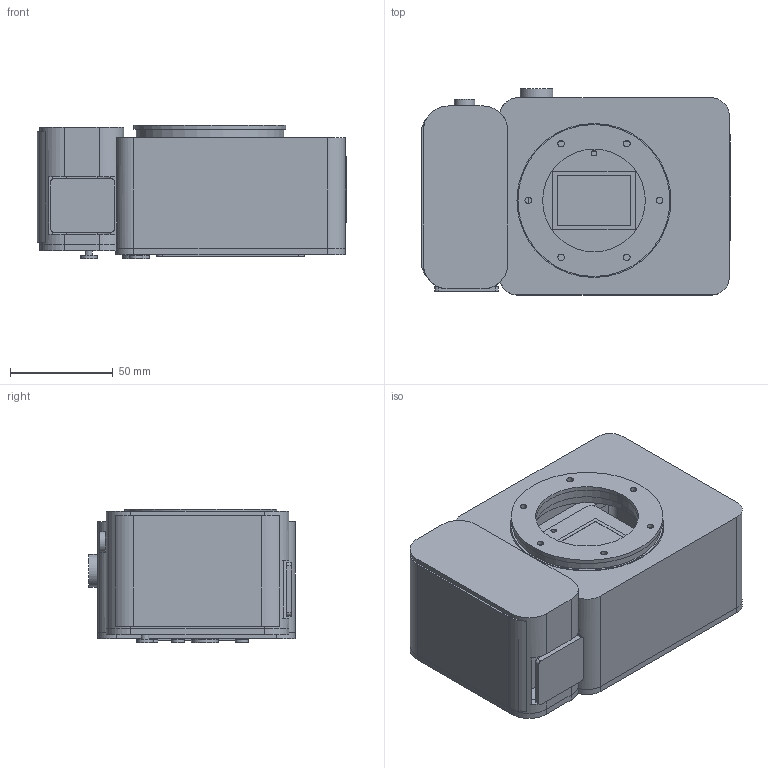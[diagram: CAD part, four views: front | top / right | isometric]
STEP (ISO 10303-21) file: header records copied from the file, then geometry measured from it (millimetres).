
FILE_DESCRIPTION(('Open CASCADE Model'),'2;1');
FILE_NAME('Open CASCADE Shape Model','2026-11-05T01:47:42',('Author'),( 'Open CASCADE'),'Open CASCADE STEP processor 7.8','Open CASCADE 7.8' ,'Unknown');
FILE_SCHEMA(('AUTOMOTIVE_DESIGN { 1 0 10303 214 1 1 1 1 }'));
Length unit declared in the file: millimetre
Products named in the file (28): HassleFree_FF1_E_concept; 01_front_shell; 02_grip_wrap; 03_rear_shell; 04_load_bearing_chassis; 27_removable_sensor_bridge; 28_removable_control_mount_rails; 29_control_board_mount_spacers; 05_humi_common_interface; 06_e_mount_cartridge_body; 07_e_mount_reference_flange; 10_independent_sensor_carrier; 11_sensor_package_placeholder; 12_sensor_active_36x24; 13_three_point_sensor_spacers; 14_heat_spreader_placeholder; 15_main_processing_board_envelope; 16_control_board_provisional_envelope; 26_control_board_component_envelopes; 17_replaceable_battery_envelope; 18_battery_service_door; 19_removable_storage_envelope; 20_storage_service_door; 21_display_module_envelope; 22_rear_buttons; 23_shutter_button; 24_top_control_dial; 25_sensor_datum_mark
Assembly tree (27 placements, depth 2):
  HassleFree_FF1_E_concept
    01_front_shell
    02_grip_wrap
    03_rear_shell
    04_load_bearing_chassis
    27_removable_sensor_bridge
    28_removable_control_mount_rails
    29_control_board_mount_spacers
    05_humi_common_interface
    06_e_mount_cartridge_body
    07_e_mount_reference_flange
    10_independent_sensor_carrier
    11_sensor_package_placeholder
    12_sensor_active_36x24
    13_three_point_sensor_spacers
    14_heat_spreader_placeholder
    15_main_processing_board_envelope
    16_control_board_provisional_envelope
    26_control_board_component_envelopes
    17_replaceable_battery_envelope
    18_battery_service_door
    19_removable_storage_envelope
    20_storage_service_door
    21_display_module_envelope
    22_rear_buttons
    23_shutter_button
    24_top_control_dial
    25_sensor_datum_mark
Bounding box: 150.7 x 100.4 x 65 mm (x, y, z)
Volume: 323798.8 mm3; surface area: 234009.2 mm2
Topology: 39 solids, 39 shells, 519 faces, 1285 edges, 856 vertices
Faces by surface type: plane 324, cylinder 195
Full cylindrical faces by diameter (mm): 1 x14, 2.6 x9, 2.7 x28, 3 x3, 3.2 x24, 3.4 x1, 3.6 x4, 4 x1, 4.2 x1, 5 x2, 5.4 x4, 5.6 x2, 6 x3, 6.4 x3, 8 x1, 10 x1, 13 x1, 16 x1, 50 x2, 57 x2, 72 x1, 74 x2, 75 x1
Entity records: 33848 total; most frequent: CARTESIAN_POINT 6362, DIRECTION 5185, LINE 3015, VECTOR 3015, ORIENTED_EDGE 2570, PCURVE 2570, DEFINITIONAL_REPRESENTATION 2570, EDGE_CURVE 1285
